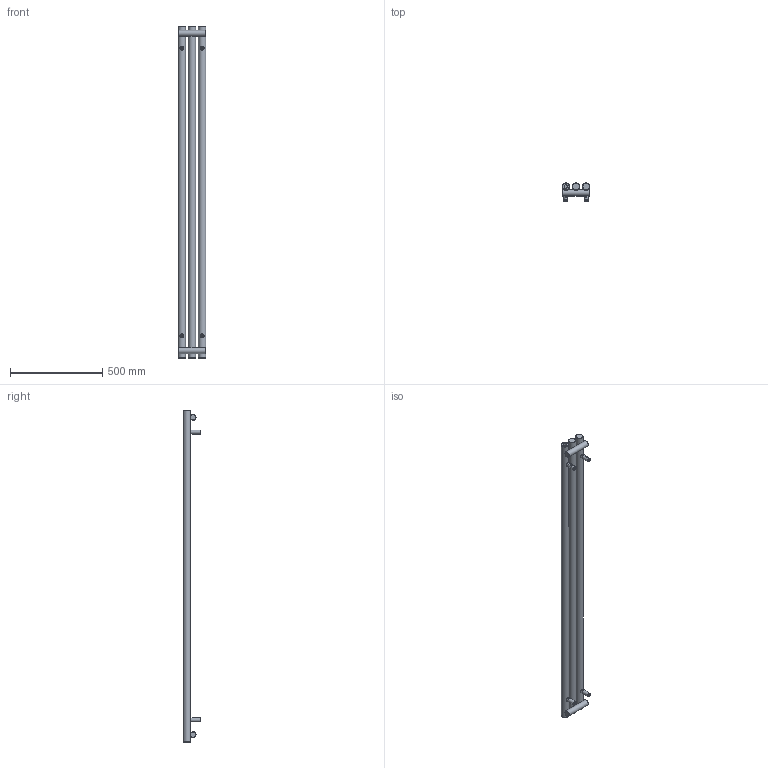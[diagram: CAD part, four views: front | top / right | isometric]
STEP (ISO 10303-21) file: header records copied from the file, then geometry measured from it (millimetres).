
FILE_DESCRIPTION(/* description */ (''),/* implementation_level */ '2;1');
FILE_NAME(/* name */ 'Z:\R\G\P\RGP116 - Grzejniki Geyser\Work\Inventor\Circolo (Rolo V, Rolo H)\ROLO-ROOM\Marketing\Zaokrąglone\WGROR180015-SX-CK-(Z).stp',/* time_stamp */ '2024-01-19T11:45:40+01:00',/* author */ ('NowAd'),/* organization */ (''),/* preprocessor_version */ 'ST-DEVELOPER v17.2',/* originating_system */ 'Autodesk Inventor 2019',/* authorisation */ '');
FILE_SCHEMA (('AUTOMOTIVE_DESIGN { 1 0 10303 214 3 1 1 }'));
Length unit declared in the file: millimetre
Products named in the file (3): WGROR180015-SX-CK-(Z); PGROR180015-SX-CK-(K); CK-V-fi40 marketing
Assembly tree (5 placements, depth 2):
  WGROR180015-SX-CK-(Z)
    PGROR180015-SX-CK-(K)
    CK-V-fi40 marketing  x4
Bounding box: 150 x 96.5 x 1800 mm (x, y, z)
Volume: 7066868.7 mm3; surface area: 748776.3 mm2
Topology: 5 solids, 5 shells, 305 faces, 774 edges, 518 vertices
Faces by surface type: plane 129, cylinder 72, cone 60, torus 38, bspline 6
Full cylindrical faces by diameter (mm): 4.134 x4, 4.48 x4, 6.4 x4, 10 x4, 12 x4, 15.834 x4, 16 x4, 18.631 x3, 22 x4, 32 x2, 40 x3
Entity records: 5423 total; most frequent: CARTESIAN_POINT 2439, DIRECTION 627, ORIENTED_EDGE 586, EDGE_CURVE 293, AXIS2_PLACEMENT_3D 277, VERTEX_POINT 200, EDGE_LOOP 153, CIRCLE 145
